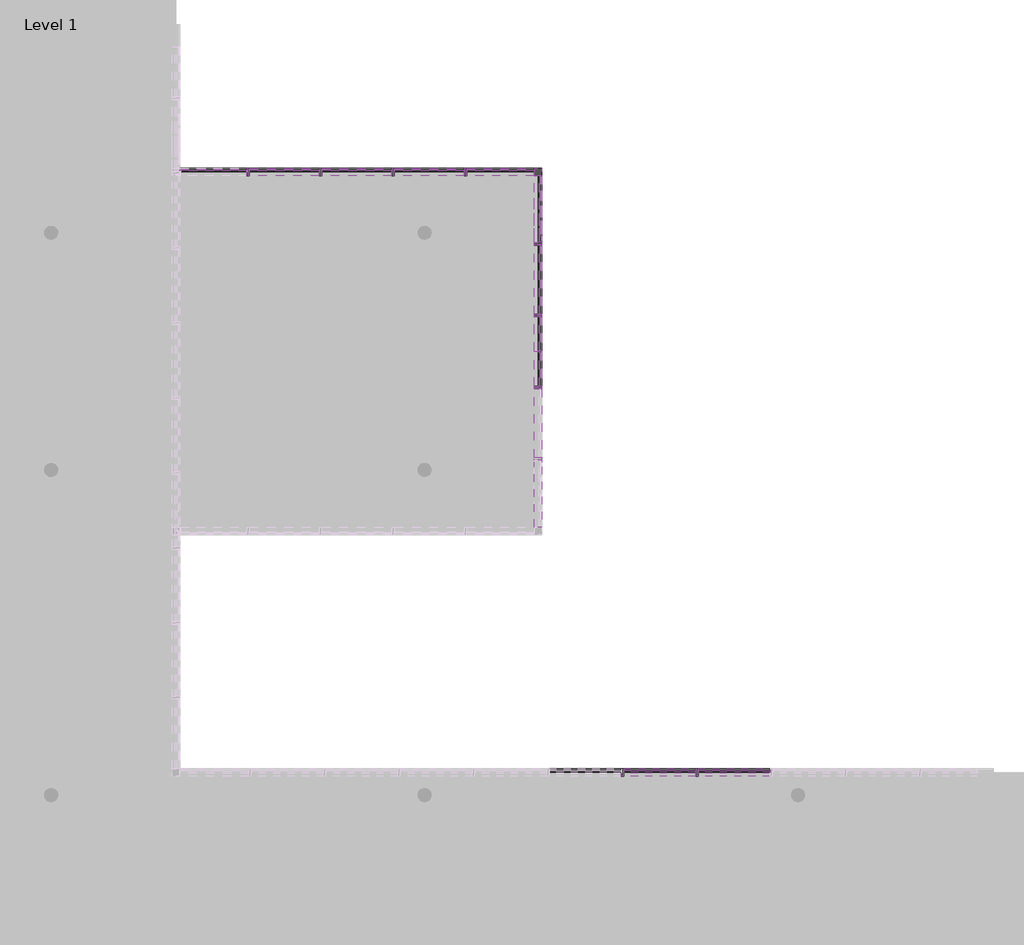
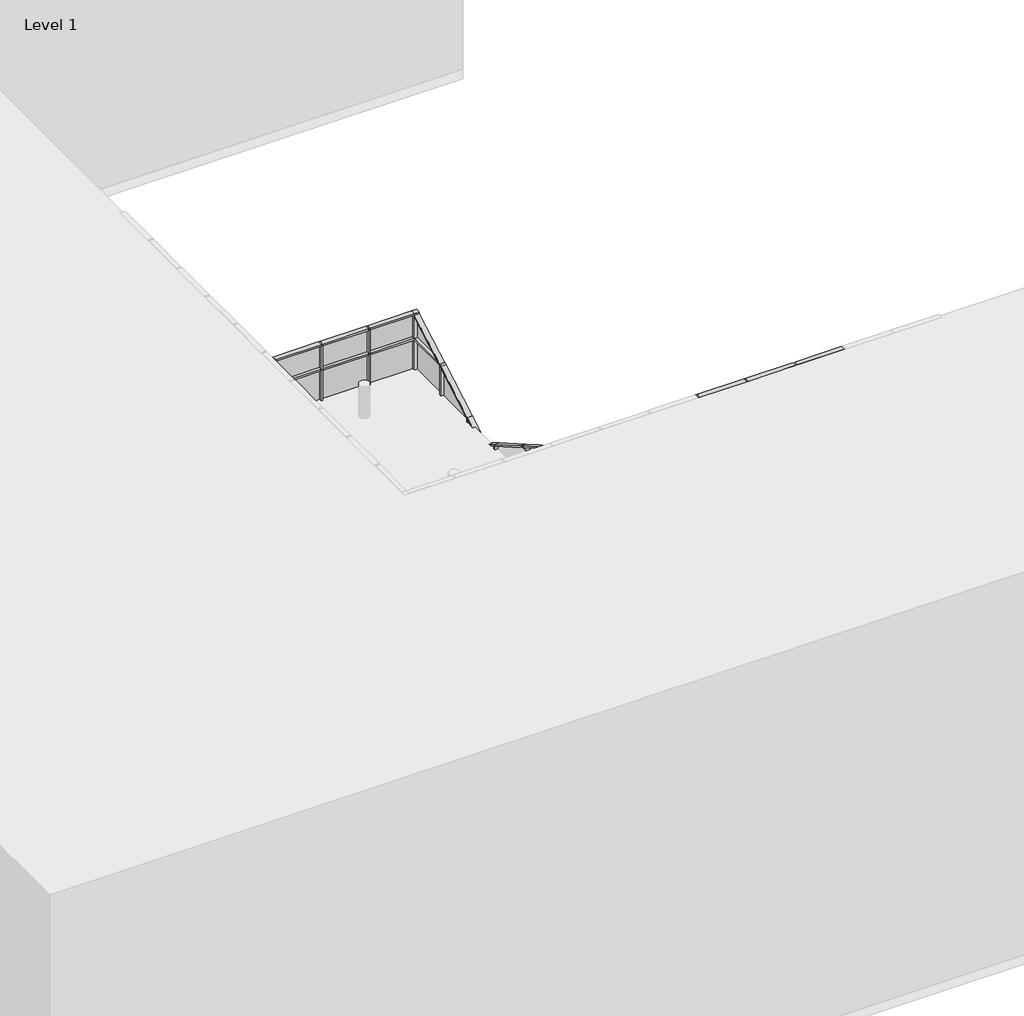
# One storey, part 4 of 27: 86 members, 36 plates.
"""IFC4 building model written with IfcOpenShell, lengths in millimetres."""

from ifc_helpers import new_model, si_unit, origin, place, context, project, spatial, transform, mapped, element, save
from components import quad_corner_mullion_quad_mullion_1_84add008, quad_corner_mullion_quad_mullion_1_81362c20, rectangular_mullion_50mm_x_150mm_5f185edf, rectangular_mullion_50mm_x_150mm_e13fe9f0, rectangular_mullion_50mm_x_150mm_4fd86324, rectangular_mullion_50mm_x_150mm_6edb5cd3, rectangular_mullion_50mm_x_150mm_015f125c, rectangular_mullion_50mm_x_150mm_d8cd8736, rectangular_mullion_50mm_x_150mm_3bb547da, rectangular_mullion_50mm_x_150mm_487a502d, rectangular_mullion_50mm_x_150mm_33c77db3, rectangular_mullion_50mm_x_150mm_4273df98, rectangular_mullion_50mm_x_150mm_62159ae8, rectangular_mullion_50mm_x_150mm_bbc1c4ea, rectangular_mullion_50mm_x_150mm_36202a7c, rectangular_mullion_50mm_x_150mm_84717ec5, rectangular_mullion_50mm_x_150mm_9fee62a8, rectangular_mullion_50mm_x_150mm_9a9261fc, rectangular_mullion_50mm_x_150mm_0d151f9d, rectangular_mullion_50mm_x_150mm_042a0947, rectangular_mullion_50mm_x_150mm_c95f637b, rectangular_mullion_50mm_x_150mm_0971b26f, rectangular_mullion_50mm_x_150mm_2daa7a2f, rectangular_mullion_50mm_x_150mm_de2f9dda, rectangular_mullion_50mm_x_150mm_bd56b2c9, rectangular_mullion_50mm_x_150mm_0a493d35, rectangular_mullion_50mm_x_150mm_e9447dd4, rectangular_mullion_50mm_x_150mm_25900149, system_panel_glazed_77cafc2b, system_panel_glazed_ed797616, system_panel_glazed_95eec517, system_panel_glazed_cdc57668, system_panel_glazed_65478968, system_panel_glazed_4c130a31, system_panel_glazed_43ff80ab, system_panel_glazed_599459a6, system_panel_glazed_bda8db77, system_panel_glazed_93e8f09b, system_panel_glazed_ac2502f9, system_panel_glazed_372dedf1, system_panel_glazed_d933175f, system_panel_glazed_00c853e1, system_panel_glazed_c12f40d2, system_panel_glazed_af97afc8, system_panel_solid_368a6b70, system_panel_solid_ece33ae8

model = new_model("IFC4")

# Units and contexts
model_context = context("Model", 3, world=origin())
ifc_project = project(units=[si_unit("LENGTHUNIT", "METRE", prefix="MILLI")], contexts=[model_context])

# Site, building, storey
site = spatial("IfcSite", under=ifc_project)
building = spatial("IfcBuilding", under=site)
storey = spatial("IfcBuildingStorey", under=building, Name="Level 1", Elevation=0.0)

# Members
placement = place(None, origin())
quad_corner_mullion_quad_mullion_1_shape = quad_corner_mullion_quad_mullion_1_84add008(model_context)
element("IfcMember", 1, ObjectType="Quad Corner Mullion : Quad Mullion 1", at=placement, inside=storey, context=model_context, shape_type="MappedRepresentation", body=[
    mapped(quad_corner_mullion_quad_mullion_1_shape, transform((14709.0902051, -89.4607941, 0.0), x_axis=(0.0, 1.0, 0.0), y_axis=(1.0, 0.0, 0.0), z_axis=(0.0, 0.0, -1.0))),
])
element("IfcMember", 2, ObjectType="Quad Corner Mullion : Quad Mullion 1", at=placement, inside=storey, context=model_context, shape_type="MappedRepresentation", body=[
    mapped(quad_corner_mullion_quad_mullion_1_shape, transform((14709.0902051, -89.4607941, 3800.0), x_axis=(0.0, 1.0, 0.0), y_axis=(1.0, 0.0, 0.0), z_axis=(0.0, 0.0, -1.0))),
])
quad_corner_mullion_quad_mullion_1_2_shape = quad_corner_mullion_quad_mullion_1_81362c20(model_context)
element("IfcMember", 3, ObjectType="Quad Corner Mullion : Quad Mullion 1", at=placement, inside=storey, context=model_context, shape_type="MappedRepresentation", body=[
    mapped(quad_corner_mullion_quad_mullion_1_2_shape, transform((14709.0902051, -89.4607941, 7600.0), x_axis=(0.0, 1.0, 0.0), y_axis=(1.0, 0.0, 0.0), z_axis=(0.0, 0.0, -1.0))),
])
rectangular_mullion_50mm_x_150mm_shape = rectangular_mullion_50mm_x_150mm_5f185edf(model_context)
element("IfcMember", 4, ObjectType="Rectangular Mullion : 50mm x 150mm", at=placement, inside=storey, context=model_context, shape_type="MappedRepresentation", body=[
    mapped(rectangular_mullion_50mm_x_150mm_shape, transform((19412.2868339, -12132.3615692, 12400.0), x_axis=(0.0, 0.0, 1.0), y_axis=(0.0, 1.0, 0.0), z_axis=(-1.0, 0.0, 0.0))),
])
element("IfcMember", 5, ObjectType="Rectangular Mullion : 50mm x 150mm", at=placement, inside=storey, context=model_context, shape_type="MappedRepresentation", body=[
    mapped(rectangular_mullion_50mm_x_150mm_shape, transform((17919.8136138, -12132.3615692, 12400.0), x_axis=(0.0, 0.0, 1.0), y_axis=(0.0, 1.0, 0.0), z_axis=(-1.0, 0.0, 0.0))),
])
element("IfcMember", 6, ObjectType="Rectangular Mullion : 50mm x 150mm", at=placement, inside=storey, context=model_context, shape_type="MappedRepresentation", body=[
    mapped(rectangular_mullion_50mm_x_150mm_shape, transform((16427.3403936, -12132.3615692, 12400.0), x_axis=(0.0, 0.0, 1.0), y_axis=(0.0, 1.0, 0.0), z_axis=(-1.0, 0.0, 0.0))),
])
element("IfcMember", 7, ObjectType="Rectangular Mullion : 50mm x 150mm", at=placement, inside=storey, context=model_context, shape_type="MappedRepresentation", body=[
    mapped(rectangular_mullion_50mm_x_150mm_shape, transform((19362.2868339, -12132.3615692, 0.0), x_axis=(0.0, 0.0, -1.0), y_axis=(0.0, 1.0, 0.0), z_axis=(1.0, 0.0, 0.0))),
])
element("IfcMember", 8, ObjectType="Rectangular Mullion : 50mm x 150mm", at=placement, inside=storey, context=model_context, shape_type="MappedRepresentation", body=[
    mapped(rectangular_mullion_50mm_x_150mm_shape, transform((17869.8136138, -12132.3615692, 0.0), x_axis=(0.0, 0.0, -1.0), y_axis=(0.0, 1.0, 0.0), z_axis=(1.0, 0.0, 0.0))),
])
element("IfcMember", 9, ObjectType="Rectangular Mullion : 50mm x 150mm", at=placement, inside=storey, context=model_context, shape_type="MappedRepresentation", body=[
    mapped(rectangular_mullion_50mm_x_150mm_shape, transform((16377.3403936, -12132.3615692, 0.0), x_axis=(0.0, 0.0, -1.0), y_axis=(0.0, 1.0, 0.0), z_axis=(1.0, 0.0, 0.0))),
])
rectangular_mullion_50mm_x_150mm_2_shape = rectangular_mullion_50mm_x_150mm_e13fe9f0(model_context)
element("IfcMember", 10, ObjectType="Rectangular Mullion : 50mm x 150mm", at=placement, inside=storey, context=model_context, shape_type="MappedRepresentation", body=[
    mapped(rectangular_mullion_50mm_x_150mm_2_shape, transform((19412.2868339, -12132.3615692, 3800.0), x_axis=(0.0, 0.0, 1.0), y_axis=(0.0, 1.0, 0.0), z_axis=(-1.0, 0.0, 0.0))),
])
element("IfcMember", 11, ObjectType="Rectangular Mullion : 50mm x 150mm", at=placement, inside=storey, context=model_context, shape_type="MappedRepresentation", body=[
    mapped(rectangular_mullion_50mm_x_150mm_2_shape, transform((17919.8136138, -12132.3615692, 3800.0), x_axis=(0.0, 0.0, 1.0), y_axis=(0.0, 1.0, 0.0), z_axis=(-1.0, 0.0, 0.0))),
])
element("IfcMember", 12, ObjectType="Rectangular Mullion : 50mm x 150mm", at=placement, inside=storey, context=model_context, shape_type="MappedRepresentation", body=[
    mapped(rectangular_mullion_50mm_x_150mm_2_shape, transform((16427.3403936, -12132.3615692, 3800.0), x_axis=(0.0, 0.0, 1.0), y_axis=(0.0, 1.0, 0.0), z_axis=(-1.0, 0.0, 0.0))),
])
element("IfcMember", 13, ObjectType="Rectangular Mullion : 50mm x 150mm", at=placement, inside=storey, context=model_context, shape_type="MappedRepresentation", body=[
    mapped(rectangular_mullion_50mm_x_150mm_2_shape, transform((17919.8136138, -12132.3615692, 7600.0), x_axis=(0.0, 0.0, 1.0), y_axis=(0.0, 1.0, 0.0), z_axis=(-1.0, 0.0, 0.0))),
])
element("IfcMember", 14, ObjectType="Rectangular Mullion : 50mm x 150mm", at=placement, inside=storey, context=model_context, shape_type="MappedRepresentation", body=[
    mapped(rectangular_mullion_50mm_x_150mm_2_shape, transform((16427.3403936, -12132.3615692, 7600.0), x_axis=(0.0, 0.0, 1.0), y_axis=(0.0, 1.0, 0.0), z_axis=(-1.0, 0.0, 0.0))),
])
element("IfcMember", 15, ObjectType="Rectangular Mullion : 50mm x 150mm", at=placement, inside=storey, context=model_context, shape_type="MappedRepresentation", body=[
    mapped(rectangular_mullion_50mm_x_150mm_2_shape, transform((17919.8136138, -12132.3615692, 11400.0), x_axis=(0.0, 0.0, 1.0), y_axis=(0.0, 1.0, 0.0), z_axis=(-1.0, 0.0, 0.0))),
])
element("IfcMember", 16, ObjectType="Rectangular Mullion : 50mm x 150mm", at=placement, inside=storey, context=model_context, shape_type="MappedRepresentation", body=[
    mapped(rectangular_mullion_50mm_x_150mm_2_shape, transform((16427.3403936, -12132.3615692, 11400.0), x_axis=(0.0, 0.0, 1.0), y_axis=(0.0, 1.0, 0.0), z_axis=(-1.0, 0.0, 0.0))),
])
element("IfcMember", 17, ObjectType="Rectangular Mullion : 50mm x 150mm", at=placement, inside=storey, context=model_context, shape_type="MappedRepresentation", body=[
    mapped(rectangular_mullion_50mm_x_150mm_2_shape, transform((17919.8136138, -12132.3615692, 2440.0), x_axis=(0.0, 0.0, 1.0), y_axis=(0.0, 1.0, 0.0), z_axis=(-1.0, 0.0, 0.0))),
])
element("IfcMember", 18, ObjectType="Rectangular Mullion : 50mm x 150mm", at=placement, inside=storey, context=model_context, shape_type="MappedRepresentation", body=[
    mapped(rectangular_mullion_50mm_x_150mm_2_shape, transform((16427.3403936, -12132.3615692, 2440.0), x_axis=(0.0, 0.0, 1.0), y_axis=(0.0, 1.0, 0.0), z_axis=(-1.0, 0.0, 0.0))),
])
element("IfcMember", 19, ObjectType="Rectangular Mullion : 50mm x 150mm", at=placement, inside=storey, context=model_context, shape_type="MappedRepresentation", body=[
    mapped(rectangular_mullion_50mm_x_150mm_2_shape, transform((17919.8136138, -12132.3615692, 6240.0), x_axis=(0.0, 0.0, 1.0), y_axis=(0.0, 1.0, 0.0), z_axis=(-1.0, 0.0, 0.0))),
])
element("IfcMember", 20, ObjectType="Rectangular Mullion : 50mm x 150mm", at=placement, inside=storey, context=model_context, shape_type="MappedRepresentation", body=[
    mapped(rectangular_mullion_50mm_x_150mm_2_shape, transform((16427.3403936, -12132.3615692, 6240.0), x_axis=(0.0, 0.0, 1.0), y_axis=(0.0, 1.0, 0.0), z_axis=(-1.0, 0.0, 0.0))),
])
element("IfcMember", 21, ObjectType="Rectangular Mullion : 50mm x 150mm", at=placement, inside=storey, context=model_context, shape_type="MappedRepresentation", body=[
    mapped(rectangular_mullion_50mm_x_150mm_2_shape, transform((17919.8136138, -12132.3615692, 10040.0), x_axis=(0.0, 0.0, 1.0), y_axis=(0.0, 1.0, 0.0), z_axis=(-1.0, 0.0, 0.0))),
])
element("IfcMember", 22, ObjectType="Rectangular Mullion : 50mm x 150mm", at=placement, inside=storey, context=model_context, shape_type="MappedRepresentation", body=[
    mapped(rectangular_mullion_50mm_x_150mm_2_shape, transform((16427.3403936, -12132.3615692, 10040.0), x_axis=(0.0, 0.0, 1.0), y_axis=(0.0, 1.0, 0.0), z_axis=(-1.0, 0.0, 0.0))),
])
rectangular_mullion_50mm_x_150mm_3_shape = rectangular_mullion_50mm_x_150mm_4fd86324(model_context)
element("IfcMember", 23, ObjectType="Rectangular Mullion : 50mm x 150mm", at=placement, inside=storey, context=model_context, shape_type="MappedRepresentation", body=[
    mapped(rectangular_mullion_50mm_x_150mm_3_shape, transform((11829.4545519, -89.4607941, 8424.5150656), x_axis=(0.0, 0.0, 1.0), y_axis=(0.0, 1.0, 0.0), z_axis=(-1.0, 0.0, 0.0))),
])
element("IfcMember", 24, ObjectType="Rectangular Mullion : 50mm x 150mm", at=placement, inside=storey, context=model_context, shape_type="MappedRepresentation", body=[
    mapped(rectangular_mullion_50mm_x_150mm_3_shape, transform((10377.1367255, -89.4607941, 8424.5150656), x_axis=(0.0, 0.0, 1.0), y_axis=(0.0, 1.0, 0.0), z_axis=(-1.0, 0.0, 0.0))),
])
element("IfcMember", 25, ObjectType="Rectangular Mullion : 50mm x 150mm", at=placement, inside=storey, context=model_context, shape_type="MappedRepresentation", body=[
    mapped(rectangular_mullion_50mm_x_150mm_3_shape, transform((8924.8188991, -89.4607941, 8424.5150656), x_axis=(0.0, 0.0, 1.0), y_axis=(0.0, 1.0, 0.0), z_axis=(-1.0, 0.0, 0.0))),
])
element("IfcMember", 26, ObjectType="Rectangular Mullion : 50mm x 150mm", at=placement, inside=storey, context=model_context, shape_type="MappedRepresentation", body=[
    mapped(rectangular_mullion_50mm_x_150mm_3_shape, transform((13231.7723783, -89.4607941, 0.0), x_axis=(0.0, 0.0, -1.0), y_axis=(0.0, 1.0, 0.0), z_axis=(1.0, 0.0, 0.0))),
])
element("IfcMember", 27, ObjectType="Rectangular Mullion : 50mm x 150mm", at=placement, inside=storey, context=model_context, shape_type="MappedRepresentation", body=[
    mapped(rectangular_mullion_50mm_x_150mm_3_shape, transform((11779.4545519, -89.4607941, 0.0), x_axis=(0.0, 0.0, -1.0), y_axis=(0.0, 1.0, 0.0), z_axis=(1.0, 0.0, 0.0))),
])
element("IfcMember", 28, ObjectType="Rectangular Mullion : 50mm x 150mm", at=placement, inside=storey, context=model_context, shape_type="MappedRepresentation", body=[
    mapped(rectangular_mullion_50mm_x_150mm_3_shape, transform((10327.1367255, -89.4607941, 0.0), x_axis=(0.0, 0.0, -1.0), y_axis=(0.0, 1.0, 0.0), z_axis=(1.0, 0.0, 0.0))),
])
rectangular_mullion_50mm_x_150mm_4_shape = rectangular_mullion_50mm_x_150mm_6edb5cd3(model_context)
element("IfcMember", 29, ObjectType="Rectangular Mullion : 50mm x 150mm", at=placement, inside=storey, context=model_context, shape_type="MappedRepresentation", body=[
    mapped(rectangular_mullion_50mm_x_150mm_4_shape, transform((11829.4545519, -89.4607941, 3800.0), x_axis=(0.0, 0.0, 1.0), y_axis=(0.0, 1.0, 0.0), z_axis=(-1.0, 0.0, 0.0))),
])
element("IfcMember", 30, ObjectType="Rectangular Mullion : 50mm x 150mm", at=placement, inside=storey, context=model_context, shape_type="MappedRepresentation", body=[
    mapped(rectangular_mullion_50mm_x_150mm_4_shape, transform((10377.1367255, -89.4607941, 3800.0), x_axis=(0.0, 0.0, 1.0), y_axis=(0.0, 1.0, 0.0), z_axis=(-1.0, 0.0, 0.0))),
])
element("IfcMember", 31, ObjectType="Rectangular Mullion : 50mm x 150mm", at=placement, inside=storey, context=model_context, shape_type="MappedRepresentation", body=[
    mapped(rectangular_mullion_50mm_x_150mm_4_shape, transform((8924.8188991, -89.4607941, 3800.0), x_axis=(0.0, 0.0, 1.0), y_axis=(0.0, 1.0, 0.0), z_axis=(-1.0, 0.0, 0.0))),
])
element("IfcMember", 32, ObjectType="Rectangular Mullion : 50mm x 150mm", at=placement, inside=storey, context=model_context, shape_type="MappedRepresentation", body=[
    mapped(rectangular_mullion_50mm_x_150mm_4_shape, transform((11829.4545519, -89.4607941, 7600.0), x_axis=(0.0, 0.0, 1.0), y_axis=(0.0, 1.0, 0.0), z_axis=(-1.0, 0.0, 0.0))),
])
element("IfcMember", 33, ObjectType="Rectangular Mullion : 50mm x 150mm", at=placement, inside=storey, context=model_context, shape_type="MappedRepresentation", body=[
    mapped(rectangular_mullion_50mm_x_150mm_4_shape, transform((10377.1367255, -89.4607941, 7600.0), x_axis=(0.0, 0.0, 1.0), y_axis=(0.0, 1.0, 0.0), z_axis=(-1.0, 0.0, 0.0))),
])
element("IfcMember", 34, ObjectType="Rectangular Mullion : 50mm x 150mm", at=placement, inside=storey, context=model_context, shape_type="MappedRepresentation", body=[
    mapped(rectangular_mullion_50mm_x_150mm_4_shape, transform((8924.8188991, -89.4607941, 7600.0), x_axis=(0.0, 0.0, 1.0), y_axis=(0.0, 1.0, 0.0), z_axis=(-1.0, 0.0, 0.0))),
])
rectangular_mullion_50mm_x_150mm_5_shape = rectangular_mullion_50mm_x_150mm_015f125c(model_context)
element("IfcMember", 35, ObjectType="Rectangular Mullion : 50mm x 150mm", at=placement, inside=storey, context=model_context, shape_type="MappedRepresentation", body=[
    mapped(rectangular_mullion_50mm_x_150mm_5_shape, transform((14709.0902051, -4381.1010266, 0.0), x_axis=(0.0, 0.0, -1.0), y_axis=(1.0, 0.0, 0.0), z_axis=(0.0, -1.0, 0.0))),
])
element("IfcMember", 36, ObjectType="Rectangular Mullion : 50mm x 150mm", at=placement, inside=storey, context=model_context, shape_type="MappedRepresentation", body=[
    mapped(rectangular_mullion_50mm_x_150mm_5_shape, transform((14709.0902051, -2942.2209492, 0.0), x_axis=(0.0, 0.0, -1.0), y_axis=(1.0, 0.0, 0.0), z_axis=(0.0, -1.0, 0.0))),
])
rectangular_mullion_50mm_x_150mm_6_shape = rectangular_mullion_50mm_x_150mm_d8cd8736(model_context)
element("IfcMember", 37, ObjectType="Rectangular Mullion : 50mm x 150mm", at=placement, inside=storey, context=model_context, shape_type="MappedRepresentation", body=[
    mapped(rectangular_mullion_50mm_x_150mm_6_shape, transform((14709.0902051, -4431.1010266, 3800.0), x_axis=(0.0, 0.0, 1.0), y_axis=(1.0, 0.0, 0.0), z_axis=(0.0, 1.0, 0.0))),
])
element("IfcMember", 38, ObjectType="Rectangular Mullion : 50mm x 150mm", at=placement, inside=storey, context=model_context, shape_type="MappedRepresentation", body=[
    mapped(rectangular_mullion_50mm_x_150mm_6_shape, transform((14709.0902051, -2992.2209492, 3800.0), x_axis=(0.0, 0.0, 1.0), y_axis=(1.0, 0.0, 0.0), z_axis=(0.0, 1.0, 0.0))),
])
element("IfcMember", 39, ObjectType="Rectangular Mullion : 50mm x 150mm", at=placement, inside=storey, context=model_context, shape_type="MappedRepresentation", body=[
    mapped(rectangular_mullion_50mm_x_150mm_6_shape, transform((14709.0902051, -1553.3408718, 3800.0), x_axis=(0.0, 0.0, 1.0), y_axis=(1.0, 0.0, 0.0), z_axis=(0.0, 1.0, 0.0))),
])
rectangular_mullion_50mm_x_150mm_7_shape = rectangular_mullion_50mm_x_150mm_3bb547da(model_context)
element("IfcMember", 40, ObjectType="Rectangular Mullion : 50mm x 150mm", at=placement, inside=storey, context=model_context, shape_type="MappedRepresentation", body=[
    mapped(rectangular_mullion_50mm_x_150mm_7_shape, transform((13281.7723783, -89.4607941, 8424.5150656), x_axis=(0.0, 0.0, 1.0), y_axis=(0.0, 1.0, 0.0), z_axis=(-1.0, 0.0, 0.0))),
])
element("IfcMember", 41, ObjectType="Rectangular Mullion : 50mm x 150mm", at=placement, inside=storey, context=model_context, shape_type="MappedRepresentation", body=[
    mapped(rectangular_mullion_50mm_x_150mm_7_shape, transform((14634.0902051, -89.4607941, 0.0), x_axis=(0.0, 0.0, -1.0), y_axis=(0.0, 1.0, 0.0), z_axis=(1.0, 0.0, 0.0))),
])
element("IfcMember", 42, ObjectType="Rectangular Mullion : 50mm x 150mm", at=placement, inside=storey, context=model_context, shape_type="MappedRepresentation", body=[
    mapped(rectangular_mullion_50mm_x_150mm_7_shape, transform((8874.8188991, -89.4607941, 0.0), x_axis=(0.0, 0.0, -1.0), y_axis=(0.0, 1.0, 0.0), z_axis=(1.0, 0.0, 0.0))),
])
rectangular_mullion_50mm_x_150mm_8_shape = rectangular_mullion_50mm_x_150mm_487a502d(model_context)
element("IfcMember", 43, ObjectType="Rectangular Mullion : 50mm x 150mm", at=placement, inside=storey, context=model_context, shape_type="MappedRepresentation", body=[
    mapped(rectangular_mullion_50mm_x_150mm_8_shape, transform((13281.7723783, -89.4607941, 3800.0), x_axis=(0.0, 0.0, 1.0), y_axis=(0.0, 1.0, 0.0), z_axis=(-1.0, 0.0, 0.0))),
])
element("IfcMember", 44, ObjectType="Rectangular Mullion : 50mm x 150mm", at=placement, inside=storey, context=model_context, shape_type="MappedRepresentation", body=[
    mapped(rectangular_mullion_50mm_x_150mm_8_shape, transform((13281.7723783, -89.4607941, 7600.0), x_axis=(0.0, 0.0, 1.0), y_axis=(0.0, 1.0, 0.0), z_axis=(-1.0, 0.0, 0.0))),
])
rectangular_mullion_50mm_x_150mm_9_shape = rectangular_mullion_50mm_x_150mm_33c77db3(model_context)
element("IfcMember", 45, ObjectType="Rectangular Mullion : 50mm x 150mm", at=placement, inside=storey, context=model_context, shape_type="MappedRepresentation", body=[
    mapped(rectangular_mullion_50mm_x_150mm_9_shape, transform((14709.0902051, -1503.3408718, 0.0), x_axis=(0.0, 0.0, -1.0), y_axis=(1.0, 0.0, 0.0), z_axis=(0.0, -1.0, 0.0))),
])
rectangular_mullion_50mm_x_150mm_10_shape = rectangular_mullion_50mm_x_150mm_4273df98(model_context)
element("IfcMember", 46, ObjectType="Rectangular Mullion : 50mm x 150mm", at=placement, inside=storey, context=model_context, shape_type="MappedRepresentation", body=[
    mapped(rectangular_mullion_50mm_x_150mm_10_shape, transform((14709.0902051, -164.4607941, 3800.0), x_axis=(0.0, 0.0, 1.0), y_axis=(1.0, 0.0, 0.0), z_axis=(0.0, 1.0, 0.0))),
])
rectangular_mullion_50mm_x_150mm_11_shape = rectangular_mullion_50mm_x_150mm_62159ae8(model_context)
element("IfcMember", 47, ObjectType="Rectangular Mullion : 50mm x 150mm", at=placement, inside=storey, context=model_context, shape_type="MappedRepresentation", body=[
    mapped(rectangular_mullion_50mm_x_150mm_11_shape, transform((13256.7723783, -89.4607941, 0.0), x_axis=(-1.0, 0.0, 0.0), y_axis=(0.0, 1.0, 0.0), z_axis=(0.0, 0.0, -1.0))),
])
element("IfcMember", 48, ObjectType="Rectangular Mullion : 50mm x 150mm", at=placement, inside=storey, context=model_context, shape_type="MappedRepresentation", body=[
    mapped(rectangular_mullion_50mm_x_150mm_11_shape, transform((11804.4545519, -89.4607941, 0.0), x_axis=(-1.0, 0.0, 0.0), y_axis=(0.0, 1.0, 0.0), z_axis=(0.0, 0.0, -1.0))),
])
element("IfcMember", 49, ObjectType="Rectangular Mullion : 50mm x 150mm", at=placement, inside=storey, context=model_context, shape_type="MappedRepresentation", body=[
    mapped(rectangular_mullion_50mm_x_150mm_11_shape, transform((10352.1367255, -89.4607941, 0.0), x_axis=(-1.0, 0.0, 0.0), y_axis=(0.0, 1.0, 0.0), z_axis=(0.0, 0.0, -1.0))),
])
element("IfcMember", 50, ObjectType="Rectangular Mullion : 50mm x 150mm", at=placement, inside=storey, context=model_context, shape_type="MappedRepresentation", body=[
    mapped(rectangular_mullion_50mm_x_150mm_11_shape, transform((8899.8188991, -89.4607941, 0.0), x_axis=(-1.0, 0.0, 0.0), y_axis=(0.0, 1.0, 0.0), z_axis=(0.0, 0.0, -1.0))),
])
element("IfcMember", 51, ObjectType="Rectangular Mullion : 50mm x 150mm", at=placement, inside=storey, context=model_context, shape_type="MappedRepresentation", body=[
    mapped(rectangular_mullion_50mm_x_150mm_11_shape, transform((14709.0902051, -4406.1010266, 0.0), x_axis=(0.0, 1.0, 0.0), y_axis=(1.0, 0.0, 0.0), z_axis=(0.0, 0.0, -1.0))),
])
element("IfcMember", 52, ObjectType="Rectangular Mullion : 50mm x 150mm", at=placement, inside=storey, context=model_context, shape_type="MappedRepresentation", body=[
    mapped(rectangular_mullion_50mm_x_150mm_11_shape, transform((14709.0902051, -2967.2209492, 0.0), x_axis=(0.0, 1.0, 0.0), y_axis=(1.0, 0.0, 0.0), z_axis=(0.0, 0.0, -1.0))),
])
element("IfcMember", 53, ObjectType="Rectangular Mullion : 50mm x 150mm", at=placement, inside=storey, context=model_context, shape_type="MappedRepresentation", body=[
    mapped(rectangular_mullion_50mm_x_150mm_11_shape, transform((14709.0902051, -1528.3408718, 0.0), x_axis=(0.0, 1.0, 0.0), y_axis=(1.0, 0.0, 0.0), z_axis=(0.0, 0.0, -1.0))),
])
rectangular_mullion_50mm_x_150mm_12_shape = rectangular_mullion_50mm_x_150mm_bbc1c4ea(model_context)
element("IfcMember", 54, ObjectType="Rectangular Mullion : 50mm x 150mm", at=placement, inside=storey, context=model_context, shape_type="MappedRepresentation", body=[
    mapped(rectangular_mullion_50mm_x_150mm_12_shape, transform((17894.8136138, -12132.3615692, 11400.0), x_axis=(-1.0, 0.0, 0.0), y_axis=(0.0, 1.0, 0.0), z_axis=(0.0, 0.0, -1.0))),
])
element("IfcMember", 55, ObjectType="Rectangular Mullion : 50mm x 150mm", at=placement, inside=storey, context=model_context, shape_type="MappedRepresentation", body=[
    mapped(rectangular_mullion_50mm_x_150mm_12_shape, transform((16402.3403936, -12132.3615692, 11400.0), x_axis=(-1.0, 0.0, 0.0), y_axis=(0.0, 1.0, 0.0), z_axis=(0.0, 0.0, -1.0))),
])
rectangular_mullion_50mm_x_150mm_13_shape = rectangular_mullion_50mm_x_150mm_36202a7c(model_context)
element("IfcMember", 56, ObjectType="Rectangular Mullion : 50mm x 150mm", at=placement, inside=storey, context=model_context, shape_type="MappedRepresentation", body=[
    mapped(rectangular_mullion_50mm_x_150mm_13_shape, transform((17894.8136138, -12132.3615692, 0.0), x_axis=(-1.0, 0.0, 0.0), y_axis=(0.0, 1.0, 0.0), z_axis=(0.0, 0.0, -1.0))),
])
element("IfcMember", 57, ObjectType="Rectangular Mullion : 50mm x 150mm", at=placement, inside=storey, context=model_context, shape_type="MappedRepresentation", body=[
    mapped(rectangular_mullion_50mm_x_150mm_13_shape, transform((16402.3403936, -12132.3615692, 0.0), x_axis=(-1.0, 0.0, 0.0), y_axis=(0.0, 1.0, 0.0), z_axis=(0.0, 0.0, -1.0))),
])
rectangular_mullion_50mm_x_150mm_14_shape = rectangular_mullion_50mm_x_150mm_84717ec5(model_context)
element("IfcMember", 58, ObjectType="Rectangular Mullion : 50mm x 150mm", at=placement, inside=storey, context=model_context, shape_type="MappedRepresentation", body=[
    mapped(rectangular_mullion_50mm_x_150mm_14_shape, transform((17894.8136138, -12132.3615692, 2440.0), x_axis=(-1.0, 0.0, 0.0), y_axis=(0.0, 1.0, 0.0), z_axis=(0.0, 0.0, -1.0))),
])
element("IfcMember", 59, ObjectType="Rectangular Mullion : 50mm x 150mm", at=placement, inside=storey, context=model_context, shape_type="MappedRepresentation", body=[
    mapped(rectangular_mullion_50mm_x_150mm_14_shape, transform((16402.3403936, -12132.3615692, 2440.0), x_axis=(-1.0, 0.0, 0.0), y_axis=(0.0, 1.0, 0.0), z_axis=(0.0, 0.0, -1.0))),
])
element("IfcMember", 60, ObjectType="Rectangular Mullion : 50mm x 150mm", at=placement, inside=storey, context=model_context, shape_type="MappedRepresentation", body=[
    mapped(rectangular_mullion_50mm_x_150mm_14_shape, transform((17894.8136138, -12132.3615692, 6240.0), x_axis=(-1.0, 0.0, 0.0), y_axis=(0.0, 1.0, 0.0), z_axis=(0.0, 0.0, -1.0))),
])
element("IfcMember", 61, ObjectType="Rectangular Mullion : 50mm x 150mm", at=placement, inside=storey, context=model_context, shape_type="MappedRepresentation", body=[
    mapped(rectangular_mullion_50mm_x_150mm_14_shape, transform((16402.3403936, -12132.3615692, 6240.0), x_axis=(-1.0, 0.0, 0.0), y_axis=(0.0, 1.0, 0.0), z_axis=(0.0, 0.0, -1.0))),
])
element("IfcMember", 62, ObjectType="Rectangular Mullion : 50mm x 150mm", at=placement, inside=storey, context=model_context, shape_type="MappedRepresentation", body=[
    mapped(rectangular_mullion_50mm_x_150mm_14_shape, transform((17894.8136138, -12132.3615692, 10040.0), x_axis=(-1.0, 0.0, 0.0), y_axis=(0.0, 1.0, 0.0), z_axis=(0.0, 0.0, -1.0))),
])
element("IfcMember", 63, ObjectType="Rectangular Mullion : 50mm x 150mm", at=placement, inside=storey, context=model_context, shape_type="MappedRepresentation", body=[
    mapped(rectangular_mullion_50mm_x_150mm_14_shape, transform((16402.3403936, -12132.3615692, 10040.0), x_axis=(-1.0, 0.0, 0.0), y_axis=(0.0, 1.0, 0.0), z_axis=(0.0, 0.0, -1.0))),
])
element("IfcMember", 64, ObjectType="Rectangular Mullion : 50mm x 150mm", at=placement, inside=storey, context=model_context, shape_type="MappedRepresentation", body=[
    mapped(rectangular_mullion_50mm_x_150mm_13_shape, transform((17894.8136138, -12132.3615692, 3800.0), x_axis=(-1.0, 0.0, 0.0), y_axis=(0.0, 1.0, 0.0), z_axis=(0.0, 0.0, -1.0))),
])
element("IfcMember", 65, ObjectType="Rectangular Mullion : 50mm x 150mm", at=placement, inside=storey, context=model_context, shape_type="MappedRepresentation", body=[
    mapped(rectangular_mullion_50mm_x_150mm_13_shape, transform((16402.3403936, -12132.3615692, 3800.0), x_axis=(-1.0, 0.0, 0.0), y_axis=(0.0, 1.0, 0.0), z_axis=(0.0, 0.0, -1.0))),
])
element("IfcMember", 66, ObjectType="Rectangular Mullion : 50mm x 150mm", at=placement, inside=storey, context=model_context, shape_type="MappedRepresentation", body=[
    mapped(rectangular_mullion_50mm_x_150mm_13_shape, transform((17894.8136138, -12132.3615692, 7600.0), x_axis=(-1.0, 0.0, 0.0), y_axis=(0.0, 1.0, 0.0), z_axis=(0.0, 0.0, -1.0))),
])
element("IfcMember", 67, ObjectType="Rectangular Mullion : 50mm x 150mm", at=placement, inside=storey, context=model_context, shape_type="MappedRepresentation", body=[
    mapped(rectangular_mullion_50mm_x_150mm_13_shape, transform((16402.3403936, -12132.3615692, 7600.0), x_axis=(-1.0, 0.0, 0.0), y_axis=(0.0, 1.0, 0.0), z_axis=(0.0, 0.0, -1.0))),
])
rectangular_mullion_50mm_x_150mm_15_shape = rectangular_mullion_50mm_x_150mm_9fee62a8(model_context)
element("IfcMember", 68, ObjectType="Rectangular Mullion : 50mm x 150mm", at=placement, inside=storey, context=model_context, shape_type="MappedRepresentation", body=[
    mapped(rectangular_mullion_50mm_x_150mm_15_shape, transform((14709.0902051, -4406.1010266, 3800.0), x_axis=(0.0, 1.0, 0.0), y_axis=(1.0, 0.0, 0.0), z_axis=(0.0, 0.0, -1.0))),
])
rectangular_mullion_50mm_x_150mm_16_shape = rectangular_mullion_50mm_x_150mm_9a9261fc(model_context)
element("IfcMember", 69, ObjectType="Rectangular Mullion : 50mm x 150mm", at=placement, inside=storey, context=model_context, shape_type="MappedRepresentation", body=[
    mapped(rectangular_mullion_50mm_x_150mm_16_shape, transform((14709.0902051, -2967.2209492, 3800.0), x_axis=(0.0, 1.0, 0.0), y_axis=(1.0, 0.0, 0.0), z_axis=(0.0, 0.0, -1.0))),
])
rectangular_mullion_50mm_x_150mm_17_shape = rectangular_mullion_50mm_x_150mm_0d151f9d(model_context)
element("IfcMember", 70, ObjectType="Rectangular Mullion : 50mm x 150mm", at=placement, inside=storey, context=model_context, shape_type="MappedRepresentation", body=[
    mapped(rectangular_mullion_50mm_x_150mm_17_shape, transform((14709.0902051, -1528.3408718, 3800.0), x_axis=(0.0, 1.0, 0.0), y_axis=(1.0, 0.0, 0.0), z_axis=(0.0, 0.0, -1.0))),
])
rectangular_mullion_50mm_x_150mm_18_shape = rectangular_mullion_50mm_x_150mm_042a0947(model_context)
element("IfcMember", 71, ObjectType="Rectangular Mullion : 50mm x 150mm", at=placement, inside=storey, context=model_context, shape_type="MappedRepresentation", body=[
    mapped(rectangular_mullion_50mm_x_150mm_18_shape, transform((14709.0902051, -3686.6609879, 6347.6705654), x_axis=(0.0, 0.5000000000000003, 0.8660254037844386), y_axis=(1.0, 0.0, 0.0), z_axis=(0.0, 0.8660254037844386, -0.5000000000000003))),
])
rectangular_mullion_50mm_x_150mm_19_shape = rectangular_mullion_50mm_x_150mm_c95f637b(model_context)
element("IfcMember", 72, ObjectType="Rectangular Mullion : 50mm x 150mm", at=placement, inside=storey, context=model_context, shape_type="MappedRepresentation", body=[
    mapped(rectangular_mullion_50mm_x_150mm_19_shape, transform((14709.0902051, -2967.2209492, 6763.0394654), x_axis=(0.0, -0.5000000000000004, 0.8660254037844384), y_axis=(1.0, 0.0, 0.0), z_axis=(0.0, 0.8660254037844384, 0.5000000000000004))),
])
rectangular_mullion_50mm_x_150mm_20_shape = rectangular_mullion_50mm_x_150mm_0971b26f(model_context)
element("IfcMember", 73, ObjectType="Rectangular Mullion : 50mm x 150mm", at=placement, inside=storey, context=model_context, shape_type="MappedRepresentation", body=[
    mapped(rectangular_mullion_50mm_x_150mm_20_shape, transform((14709.0902051, -1528.3408718, 7593.7772654), x_axis=(0.0, -0.49999999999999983, 0.8660254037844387), y_axis=(1.0, 0.0, 0.0), z_axis=(0.0, 0.8660254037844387, 0.49999999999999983))),
])
element("IfcMember", 74, ObjectType="Rectangular Mullion : 50mm x 150mm", at=placement, inside=storey, context=model_context, shape_type="MappedRepresentation", body=[
    mapped(rectangular_mullion_50mm_x_150mm_11_shape, transform((13256.7723783, -89.4607941, 3800.0), x_axis=(-1.0, 0.0, 0.0), y_axis=(0.0, 1.0, 0.0), z_axis=(0.0, 0.0, -1.0))),
])
element("IfcMember", 75, ObjectType="Rectangular Mullion : 50mm x 150mm", at=placement, inside=storey, context=model_context, shape_type="MappedRepresentation", body=[
    mapped(rectangular_mullion_50mm_x_150mm_11_shape, transform((11804.4545519, -89.4607941, 3800.0), x_axis=(-1.0, 0.0, 0.0), y_axis=(0.0, 1.0, 0.0), z_axis=(0.0, 0.0, -1.0))),
])
element("IfcMember", 76, ObjectType="Rectangular Mullion : 50mm x 150mm", at=placement, inside=storey, context=model_context, shape_type="MappedRepresentation", body=[
    mapped(rectangular_mullion_50mm_x_150mm_11_shape, transform((10352.1367255, -89.4607941, 3800.0), x_axis=(-1.0, 0.0, 0.0), y_axis=(0.0, 1.0, 0.0), z_axis=(0.0, 0.0, -1.0))),
])
element("IfcMember", 77, ObjectType="Rectangular Mullion : 50mm x 150mm", at=placement, inside=storey, context=model_context, shape_type="MappedRepresentation", body=[
    mapped(rectangular_mullion_50mm_x_150mm_11_shape, transform((8899.8188991, -89.4607941, 3800.0), x_axis=(-1.0, 0.0, 0.0), y_axis=(0.0, 1.0, 0.0), z_axis=(0.0, 0.0, -1.0))),
])
rectangular_mullion_50mm_x_150mm_21_shape = rectangular_mullion_50mm_x_150mm_2daa7a2f(model_context)
element("IfcMember", 78, ObjectType="Rectangular Mullion : 50mm x 150mm", at=placement, inside=storey, context=model_context, shape_type="MappedRepresentation", body=[
    mapped(rectangular_mullion_50mm_x_150mm_21_shape, transform((13256.7723783, -89.4607941, 7600.0), x_axis=(-1.0, 0.0, 0.0), y_axis=(0.0, 1.0, 0.0), z_axis=(0.0, 0.0, -1.0))),
])
element("IfcMember", 79, ObjectType="Rectangular Mullion : 50mm x 150mm", at=placement, inside=storey, context=model_context, shape_type="MappedRepresentation", body=[
    mapped(rectangular_mullion_50mm_x_150mm_21_shape, transform((11804.4545519, -89.4607941, 7600.0), x_axis=(-1.0, 0.0, 0.0), y_axis=(0.0, 1.0, 0.0), z_axis=(0.0, 0.0, -1.0))),
])
element("IfcMember", 80, ObjectType="Rectangular Mullion : 50mm x 150mm", at=placement, inside=storey, context=model_context, shape_type="MappedRepresentation", body=[
    mapped(rectangular_mullion_50mm_x_150mm_21_shape, transform((10352.1367255, -89.4607941, 7600.0), x_axis=(-1.0, 0.0, 0.0), y_axis=(0.0, 1.0, 0.0), z_axis=(0.0, 0.0, -1.0))),
])
element("IfcMember", 81, ObjectType="Rectangular Mullion : 50mm x 150mm", at=placement, inside=storey, context=model_context, shape_type="MappedRepresentation", body=[
    mapped(rectangular_mullion_50mm_x_150mm_21_shape, transform((8899.8188991, -89.4607941, 7600.0), x_axis=(-1.0, 0.0, 0.0), y_axis=(0.0, 1.0, 0.0), z_axis=(0.0, 0.0, -1.0))),
])
rectangular_mullion_50mm_x_150mm_22_shape = rectangular_mullion_50mm_x_150mm_de2f9dda(model_context)
element("IfcMember", 82, ObjectType="Rectangular Mullion : 50mm x 150mm", at=placement, inside=storey, context=model_context, shape_type="MappedRepresentation", body=[
    mapped(rectangular_mullion_50mm_x_150mm_22_shape, transform((14709.0902051, -89.4607941, 8424.5150656), x_axis=(0.0, -0.4999999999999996, 0.8660254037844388), y_axis=(1.0, 0.0, 0.0), z_axis=(0.0, 0.8660254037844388, 0.4999999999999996))),
])
rectangular_mullion_50mm_x_150mm_23_shape = rectangular_mullion_50mm_x_150mm_bd56b2c9(model_context)
element("IfcMember", 83, ObjectType="Rectangular Mullion : 50mm x 150mm", at=placement, inside=storey, context=model_context, shape_type="MappedRepresentation", body=[
    mapped(rectangular_mullion_50mm_x_150mm_23_shape, transform((14709.0902051, -4406.1010266, 6763.0394654), x_axis=(0.0, 0.5000000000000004, 0.8660254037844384), y_axis=(1.0, 0.0, 0.0), z_axis=(0.0, 0.8660254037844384, -0.5000000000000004))),
])
rectangular_mullion_50mm_x_150mm_24_shape = rectangular_mullion_50mm_x_150mm_0a493d35(model_context)
element("IfcMember", 84, ObjectType="Rectangular Mullion : 50mm x 150mm", at=placement, inside=storey, context=model_context, shape_type="MappedRepresentation", body=[
    mapped(rectangular_mullion_50mm_x_150mm_24_shape, transform((14709.0902051, -164.4607941, 7600.0), x_axis=(0.0, 0.0, 1.0), y_axis=(1.0, 0.0, 0.0), z_axis=(0.0, 1.0, 0.0))),
])
rectangular_mullion_50mm_x_150mm_25_shape = rectangular_mullion_50mm_x_150mm_e9447dd4(model_context)
element("IfcMember", 85, ObjectType="Rectangular Mullion : 50mm x 150mm", at=placement, inside=storey, context=model_context, shape_type="MappedRepresentation", body=[
    mapped(rectangular_mullion_50mm_x_150mm_25_shape, transform((14709.0902051, -5855.7591964, 7600.0), x_axis=(0.0, 0.5000000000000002, 0.8660254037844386), y_axis=(1.0, 0.0, 0.0), z_axis=(0.0, 0.8660254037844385, -0.5000000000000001))),
])
rectangular_mullion_50mm_x_150mm_26_shape = rectangular_mullion_50mm_x_150mm_25900149(model_context)
element("IfcMember", 86, ObjectType="Rectangular Mullion : 50mm x 150mm", at=placement, inside=storey, context=model_context, shape_type="MappedRepresentation", body=[
    mapped(rectangular_mullion_50mm_x_150mm_26_shape, transform((14709.0902051, -5855.7591964, 7600.0), x_axis=(0.0, 0.0, 1.0), y_axis=(1.0, 0.0, 0.0), z_axis=(0.0, 1.0, 0.0))),
])

# Plates
system_panel_glazed_shape = system_panel_glazed_77cafc2b(model_context)
element("IfcPlate", 87, ObjectType="System Panel : Glazed", at=placement, inside=storey, context=model_context, shape_type="MappedRepresentation", body=[
    mapped(system_panel_glazed_shape, transform((13957.9312917, -89.4607941, 50.0), x_axis=(-1.0, 0.0, 0.0), y_axis=(0.0, -1.0, 0.0), z_axis=(0.0, 0.0, 1.0))),
])
element("IfcPlate", 88, ObjectType="System Panel : Glazed", at=placement, inside=storey, context=model_context, shape_type="MappedRepresentation", body=[
    mapped(system_panel_glazed_shape, transform((8198.6599857, -89.4607941, 50.0), x_axis=(-1.0, 0.0, 0.0), y_axis=(0.0, -1.0, 0.0), z_axis=(0.0, 0.0, 1.0))),
])
system_panel_glazed_2_shape = system_panel_glazed_ed797616(model_context)
element("IfcPlate", 89, ObjectType="System Panel : Glazed", at=placement, inside=storey, context=model_context, shape_type="MappedRepresentation", body=[
    mapped(system_panel_glazed_2_shape, transform((14709.0902051, -833.900833, 50.0), x_axis=(0.0, 1.0, 0.0), y_axis=(-1.0, 0.0, 0.0), z_axis=(0.0, 0.0, 1.0))),
])
system_panel_glazed_3_shape = system_panel_glazed_95eec517(model_context)
element("IfcPlate", 90, ObjectType="System Panel : Glazed", at=placement, inside=storey, context=model_context, shape_type="MappedRepresentation", body=[
    mapped(system_panel_glazed_3_shape, transform((12530.6134651, -89.4607941, 50.0), x_axis=(-1.0, 0.0, 0.0), y_axis=(0.0, -1.0, 0.0), z_axis=(0.0, 0.0, 1.0))),
])
element("IfcPlate", 91, ObjectType="System Panel : Glazed", at=placement, inside=storey, context=model_context, shape_type="MappedRepresentation", body=[
    mapped(system_panel_glazed_3_shape, transform((11078.2956387, -89.4607941, 50.0), x_axis=(-1.0, 0.0, 0.0), y_axis=(0.0, -1.0, 0.0), z_axis=(0.0, 0.0, 1.0))),
])
element("IfcPlate", 92, ObjectType="System Panel : Glazed", at=placement, inside=storey, context=model_context, shape_type="MappedRepresentation", body=[
    mapped(system_panel_glazed_3_shape, transform((9625.9778123, -89.4607941, 50.0), x_axis=(-1.0, 0.0, 0.0), y_axis=(0.0, -1.0, 0.0), z_axis=(0.0, 0.0, 1.0))),
])
system_panel_glazed_4_shape = system_panel_glazed_cdc57668(model_context)
element("IfcPlate", 93, ObjectType="System Panel : Glazed", at=placement, inside=storey, context=model_context, shape_type="MappedRepresentation", body=[
    mapped(system_panel_glazed_4_shape, transform((14709.0902051, -3686.6609879, 50.0), x_axis=(0.0, 1.0, 0.0), y_axis=(-1.0, 0.0, 0.0), z_axis=(0.0, 0.0, 1.0))),
])
element("IfcPlate", 94, ObjectType="System Panel : Glazed", at=placement, inside=storey, context=model_context, shape_type="MappedRepresentation", body=[
    mapped(system_panel_glazed_4_shape, transform((14709.0902051, -2247.7809105, 50.0), x_axis=(0.0, 1.0, 0.0), y_axis=(-1.0, 0.0, 0.0), z_axis=(0.0, 0.0, 1.0))),
])
system_panel_glazed_5_shape = system_panel_glazed_65478968(model_context)
element("IfcPlate", 95, ObjectType="System Panel : Glazed", at=placement, inside=storey, context=model_context, shape_type="MappedRepresentation", body=[
    mapped(system_panel_glazed_5_shape, transform((18641.0502239, -12132.3615692, 50.0), x_axis=(-1.0, 0.0, 0.0), y_axis=(0.0, -1.0, 0.0), z_axis=(0.0, 0.0, 1.0))),
])
element("IfcPlate", 96, ObjectType="System Panel : Glazed", at=placement, inside=storey, context=model_context, shape_type="MappedRepresentation", body=[
    mapped(system_panel_glazed_5_shape, transform((17148.5770037, -12132.3615692, 50.0), x_axis=(-1.0, 0.0, 0.0), y_axis=(0.0, -1.0, 0.0), z_axis=(0.0, 0.0, 1.0))),
])
system_panel_glazed_6_shape = system_panel_glazed_4c130a31(model_context)
element("IfcPlate", 97, ObjectType="System Panel : Glazed", at=placement, inside=storey, context=model_context, shape_type="MappedRepresentation", body=[
    mapped(system_panel_glazed_6_shape, transform((18641.0502239, -12132.3615692, 3825.0), x_axis=(-1.0, 0.0, 0.0), y_axis=(0.0, -1.0, 0.0), z_axis=(0.0, 0.0, 1.0))),
])
element("IfcPlate", 98, ObjectType="System Panel : Glazed", at=placement, inside=storey, context=model_context, shape_type="MappedRepresentation", body=[
    mapped(system_panel_glazed_6_shape, transform((17148.5770037, -12132.3615692, 3825.0), x_axis=(-1.0, 0.0, 0.0), y_axis=(0.0, -1.0, 0.0), z_axis=(0.0, 0.0, 1.0))),
])
element("IfcPlate", 99, ObjectType="System Panel : Glazed", at=placement, inside=storey, context=model_context, shape_type="MappedRepresentation", body=[
    mapped(system_panel_glazed_6_shape, transform((18641.0502239, -12132.3615692, 7625.0), x_axis=(-1.0, 0.0, 0.0), y_axis=(0.0, -1.0, 0.0), z_axis=(0.0, 0.0, 1.0))),
])
element("IfcPlate", 100, ObjectType="System Panel : Glazed", at=placement, inside=storey, context=model_context, shape_type="MappedRepresentation", body=[
    mapped(system_panel_glazed_6_shape, transform((17148.5770037, -12132.3615692, 7625.0), x_axis=(-1.0, 0.0, 0.0), y_axis=(0.0, -1.0, 0.0), z_axis=(0.0, 0.0, 1.0))),
])
system_panel_glazed_7_shape = system_panel_glazed_43ff80ab(model_context)
element("IfcPlate", 101, ObjectType="System Panel : Glazed", at=placement, inside=storey, context=model_context, shape_type="MappedRepresentation", body=[
    mapped(system_panel_glazed_7_shape, transform((14709.0902051, -3686.6609879, 3825.0), x_axis=(0.0, 1.0, 0.0), y_axis=(-1.0, 0.0, 0.0), z_axis=(0.0, 0.0, 1.0))),
])
system_panel_glazed_8_shape = system_panel_glazed_599459a6(model_context)
element("IfcPlate", 102, ObjectType="System Panel : Glazed", at=placement, inside=storey, context=model_context, shape_type="MappedRepresentation", body=[
    mapped(system_panel_glazed_8_shape, transform((14709.0902051, -2247.7809105, 3825.0), x_axis=(0.0, 1.0, 0.0), y_axis=(-1.0, 0.0, 0.0), z_axis=(0.0, 0.0, 1.0))),
])
system_panel_glazed_9_shape = system_panel_glazed_bda8db77(model_context)
element("IfcPlate", 103, ObjectType="System Panel : Glazed", at=placement, inside=storey, context=model_context, shape_type="MappedRepresentation", body=[
    mapped(system_panel_glazed_9_shape, transform((12530.6134651, -89.4607941, 3825.0), x_axis=(-1.0, 0.0, 0.0), y_axis=(0.0, -1.0, 0.0), z_axis=(0.0, 0.0, 1.0))),
])
element("IfcPlate", 104, ObjectType="System Panel : Glazed", at=placement, inside=storey, context=model_context, shape_type="MappedRepresentation", body=[
    mapped(system_panel_glazed_9_shape, transform((11078.2956387, -89.4607941, 3825.0), x_axis=(-1.0, 0.0, 0.0), y_axis=(0.0, -1.0, 0.0), z_axis=(0.0, 0.0, 1.0))),
])
element("IfcPlate", 105, ObjectType="System Panel : Glazed", at=placement, inside=storey, context=model_context, shape_type="MappedRepresentation", body=[
    mapped(system_panel_glazed_9_shape, transform((9625.9778123, -89.4607941, 3825.0), x_axis=(-1.0, 0.0, 0.0), y_axis=(0.0, -1.0, 0.0), z_axis=(0.0, 0.0, 1.0))),
])
system_panel_glazed_10_shape = system_panel_glazed_93e8f09b(model_context)
element("IfcPlate", 106, ObjectType="System Panel : Glazed", at=placement, inside=storey, context=model_context, shape_type="MappedRepresentation", body=[
    mapped(system_panel_glazed_10_shape, transform((8198.6599857, -89.4607941, 3825.0), x_axis=(-1.0, 0.0, 0.0), y_axis=(0.0, -1.0, 0.0), z_axis=(0.0, 0.0, 1.0))),
])
system_panel_glazed_11_shape = system_panel_glazed_ac2502f9(model_context)
element("IfcPlate", 107, ObjectType="System Panel : Glazed", at=placement, inside=storey, context=model_context, shape_type="MappedRepresentation", body=[
    mapped(system_panel_glazed_11_shape, transform((14709.0902051, -833.900833, 3825.0), x_axis=(0.0, 1.0, 0.0), y_axis=(-1.0, 0.0, 0.0), z_axis=(0.0, 0.0, 1.0))),
])
system_panel_glazed_12_shape = system_panel_glazed_372dedf1(model_context)
element("IfcPlate", 108, ObjectType="System Panel : Glazed", at=placement, inside=storey, context=model_context, shape_type="MappedRepresentation", body=[
    mapped(system_panel_glazed_12_shape, transform((13957.9312917, -89.4607941, 3825.0), x_axis=(-1.0, 0.0, 0.0), y_axis=(0.0, -1.0, 0.0), z_axis=(0.0, 0.0, 1.0))),
])
system_panel_glazed_13_shape = system_panel_glazed_d933175f(model_context)
element("IfcPlate", 109, ObjectType="System Panel : Glazed", at=placement, inside=storey, context=model_context, shape_type="MappedRepresentation", body=[
    mapped(system_panel_glazed_13_shape, transform((12530.6134651, -89.4607941, 7625.0), x_axis=(-1.0, 0.0, 0.0), y_axis=(0.0, -1.0, 0.0), z_axis=(0.0, 0.0, 1.0))),
])
element("IfcPlate", 110, ObjectType="System Panel : Glazed", at=placement, inside=storey, context=model_context, shape_type="MappedRepresentation", body=[
    mapped(system_panel_glazed_13_shape, transform((11078.2956387, -89.4607941, 7625.0), x_axis=(-1.0, 0.0, 0.0), y_axis=(0.0, -1.0, 0.0), z_axis=(0.0, 0.0, 1.0))),
])
element("IfcPlate", 111, ObjectType="System Panel : Glazed", at=placement, inside=storey, context=model_context, shape_type="MappedRepresentation", body=[
    mapped(system_panel_glazed_13_shape, transform((9625.9778123, -89.4607941, 7625.0), x_axis=(-1.0, 0.0, 0.0), y_axis=(0.0, -1.0, 0.0), z_axis=(0.0, 0.0, 1.0))),
])
system_panel_glazed_14_shape = system_panel_glazed_00c853e1(model_context)
element("IfcPlate", 112, ObjectType="System Panel : Glazed", at=placement, inside=storey, context=model_context, shape_type="MappedRepresentation", body=[
    mapped(system_panel_glazed_14_shape, transform((8209.9884588, -89.4607941, 7625.0), x_axis=(-1.0, 0.0, 0.0), y_axis=(0.0, -1.0, 0.0), z_axis=(0.0, 0.0, 1.0))),
])
system_panel_glazed_15_shape = system_panel_glazed_c12f40d2(model_context)
element("IfcPlate", 113, ObjectType="System Panel : Glazed", at=placement, inside=storey, context=model_context, shape_type="MappedRepresentation", body=[
    mapped(system_panel_glazed_15_shape, transform((14709.0902051, -769.3611516, 7625.0), x_axis=(0.0, 1.0, 0.0), y_axis=(-1.0, 0.0, 0.0), z_axis=(0.0, 0.0, 1.0))),
])
system_panel_glazed_16_shape = system_panel_glazed_af97afc8(model_context)
element("IfcPlate", 114, ObjectType="System Panel : Glazed", at=placement, inside=storey, context=model_context, shape_type="MappedRepresentation", body=[
    mapped(system_panel_glazed_16_shape, transform((13957.9312917, -89.4607941, 7625.0), x_axis=(-1.0, 0.0, 0.0), y_axis=(0.0, -1.0, 0.0), z_axis=(0.0, 0.0, 1.0))),
])
system_panel_solid_shape = system_panel_solid_368a6b70(model_context)
element("IfcPlate", 115, ObjectType="System Panel : Solid", at=placement, inside=storey, context=model_context, shape_type="MappedRepresentation", body=[
    mapped(system_panel_solid_shape, transform((18641.0502239, -12132.3615692, 11425.0), x_axis=(-1.0, 0.0, 0.0), y_axis=(0.0, -1.0, 0.0), z_axis=(0.0, 0.0, 1.0))),
])
element("IfcPlate", 116, ObjectType="System Panel : Solid", at=placement, inside=storey, context=model_context, shape_type="MappedRepresentation", body=[
    mapped(system_panel_solid_shape, transform((17148.5770037, -12132.3615692, 11425.0), x_axis=(-1.0, 0.0, 0.0), y_axis=(0.0, -1.0, 0.0), z_axis=(0.0, 0.0, 1.0))),
])
system_panel_solid_2_shape = system_panel_solid_ece33ae8(model_context)
element("IfcPlate", 117, ObjectType="System Panel : Solid", at=placement, inside=storey, context=model_context, shape_type="MappedRepresentation", body=[
    mapped(system_panel_solid_2_shape, transform((18641.0502239, -12132.3615692, 2465.0), x_axis=(-1.0, 0.0, 0.0), y_axis=(0.0, -1.0, 0.0), z_axis=(0.0, 0.0, 1.0))),
])
element("IfcPlate", 118, ObjectType="System Panel : Solid", at=placement, inside=storey, context=model_context, shape_type="MappedRepresentation", body=[
    mapped(system_panel_solid_2_shape, transform((17148.5770037, -12132.3615692, 2465.0), x_axis=(-1.0, 0.0, 0.0), y_axis=(0.0, -1.0, 0.0), z_axis=(0.0, 0.0, 1.0))),
])
element("IfcPlate", 119, ObjectType="System Panel : Solid", at=placement, inside=storey, context=model_context, shape_type="MappedRepresentation", body=[
    mapped(system_panel_solid_2_shape, transform((18641.0502239, -12132.3615692, 6265.0), x_axis=(-1.0, 0.0, 0.0), y_axis=(0.0, -1.0, 0.0), z_axis=(0.0, 0.0, 1.0))),
])
element("IfcPlate", 120, ObjectType="System Panel : Solid", at=placement, inside=storey, context=model_context, shape_type="MappedRepresentation", body=[
    mapped(system_panel_solid_2_shape, transform((17148.5770037, -12132.3615692, 6265.0), x_axis=(-1.0, 0.0, 0.0), y_axis=(0.0, -1.0, 0.0), z_axis=(0.0, 0.0, 1.0))),
])
element("IfcPlate", 121, ObjectType="System Panel : Solid", at=placement, inside=storey, context=model_context, shape_type="MappedRepresentation", body=[
    mapped(system_panel_solid_2_shape, transform((18641.0502239, -12132.3615692, 10065.0), x_axis=(-1.0, 0.0, 0.0), y_axis=(0.0, -1.0, 0.0), z_axis=(0.0, 0.0, 1.0))),
])
element("IfcPlate", 122, ObjectType="System Panel : Solid", at=placement, inside=storey, context=model_context, shape_type="MappedRepresentation", body=[
    mapped(system_panel_solid_2_shape, transform((17148.5770037, -12132.3615692, 10065.0), x_axis=(-1.0, 0.0, 0.0), y_axis=(0.0, -1.0, 0.0), z_axis=(0.0, 0.0, 1.0))),
])

save(model, "model.ifc")
